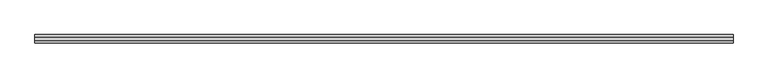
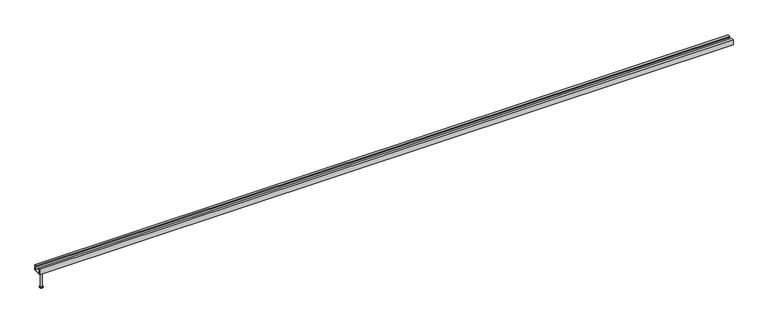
"""IFC4 building model written with IfcOpenShell, lengths in millimetres: fastener geometry, JTA-W JORDAHL® AnchorChannels : JTA-W L=6000 mm."""

from ifc_helpers import new_model, si_unit, frame, origin, place, context, project, spatial, polyline, circle_curve, outline, extrude, source, transform, mapped, element, save
from ifc_brep_helpers import plane_surface, cylinder_surface, revolved_surface, advanced_brep


def fastener_4d909be3(model_context):
    return source(origin(), model_context, "Body", "SolidModel", [
        advanced_brep(
        [(35.0, 0.0, -48.0), (58.0, 0.0, -48.0), (12.0, 0.0, -48.0), (19.5, 0.0, -195.0), (50.5, 0.0, -195.0), (35.0, 0.0, -195.0), (19.5, 0.0, -193.0), (50.5, 0.0, -193.0), (27.2, 0.0, -188.5544029), (42.8, 0.0, -188.5544029), (27.2, 0.0, -52.0), (42.8, 0.0, -52.0)],
        [
            (0, 1),
            (1, 2, circle_curve(frame((35.0, 0.0, -48.0), z_axis=(0.0, 0.0, 1.0), x_axis=(1.0, 0.0, 0.0)), 23.0)),
            (2, 0),
            (2, 1, circle_curve(frame((35.0, 0.0, -48.0), z_axis=(0.0, 0.0, 1.0), x_axis=(1.0, 0.0, 0.0)), 23.0)),
            (3, 4, circle_curve(frame((35.0, 0.0, -195.0), z_axis=(0.0, 0.0, -1.0), x_axis=(1.0, 0.0, 0.0)), 15.5)),
            (4, 5),
            (5, 3),
            (4, 3, circle_curve(frame((35.0, 0.0, -195.0), z_axis=(0.0, 0.0, -1.0), x_axis=(1.0, 0.0, 0.0)), 15.5)),
            (6, 7, circle_curve(frame((35.0, 0.0, -193.0), z_axis=(0.0, 0.0, -1.0), x_axis=(1.0, 0.0, 0.0)), 15.5)),
            (7, 4),
            (3, 6),
            (7, 6, circle_curve(frame((35.0, 0.0, -193.0), z_axis=(0.0, 0.0, -1.0), x_axis=(1.0, 0.0, 0.0)), 15.5)),
            (8, 9, circle_curve(frame((35.0, 0.0, -188.5544029), z_axis=(0.0, 0.0, -1.0), x_axis=(1.0, 0.0, 0.0)), 7.8)),
            (9, 7),
            (6, 8),
            (9, 8, circle_curve(frame((35.0, 0.0, -188.5544029), z_axis=(0.0, 0.0, -1.0), x_axis=(1.0, 0.0, 0.0)), 7.8)),
            (10, 11, circle_curve(frame((35.0, 0.0, -52.0), z_axis=(0.0, 0.0, -1.0), x_axis=(1.0, 0.0, 0.0)), 7.8)),
            (11, 9),
            (8, 10),
            (11, 10, circle_curve(frame((35.0, 0.0, -52.0), z_axis=(0.0, 0.0, -1.0), x_axis=(1.0, 0.0, 0.0)), 7.8)),
            (1, 11),
            (10, 2),
        ],
        [
            plane_surface(frame((35.0, 0.0, -48.0), z_axis=(0.0, 0.0, 1.0), x_axis=(1.0, 0.0, 0.0))),
            plane_surface(frame((35.0, 0.0, -195.0), z_axis=(0.0, 0.0, -1.0), x_axis=(1.0, 0.0, 0.0))),
            cylinder_surface(frame((35.0, 0.0, 2361.3150031), z_axis=(0.0, 0.0, 1.0), x_axis=(1.0, 0.0, 0.0)), 15.5),
            revolved_surface(polyline([(50.5, 0.0, -193.0), (42.8, 0.0, -188.5544029)]), (35.0, 0.0, 2361.3150031), (0.0, 0.0, 1.0)),
            cylinder_surface(frame((35.0, 0.0, 2361.3150031), z_axis=(0.0, 0.0, 1.0), x_axis=(1.0, 0.0, 0.0)), 7.8),
            revolved_surface(polyline([(42.8, 0.0, -52.0), (58.0, 0.0, -48.0)]), (35.0, 0.0, 2361.3150031), (0.0, 0.0, 1.0)),
        ],
        [
            (0, [[1, 2, 3]]),
            (0, [[-3, 4, -1]]),
            (1, [[5, 6, 7]]),
            (1, [[8, -7, -6]]),
            (2, [[9, 10, -5, 11]]),
            (2, [[12, -11, -8, -10]]),
            (3, [[13, 14, -9, 15]]),
            (3, [[16, -15, -12, -14]]),
            (4, [[17, 18, -13, 19]]),
            (4, [[20, -19, -16, -18]]),
            (5, [[-2, 21, -17, 22]]),
            (5, [[-4, -22, -20, -21]]),
        ],
    ),
        extrude(outline(polyline([(36.0, 0.0), (36.0, -48.0), (-36.0, -48.0), (-36.0, 0.0), (-16.5, 0.0), (-16.5, -10.0), (-31.0, -10.0), (-31.0, -43.0), (31.0, -43.0), (31.0, -10.0), (16.5, -10.0), (16.5, 0.0), (36.0, 0.0)])), frame((0.0, 0.0, 0.0), z_axis=(1.0, 0.0, 0.0), x_axis=(0.0, 1.0, 0.0)), (0.0, 0.0, 1.0), 6000.0),
    ])


if __name__ == "__main__":
    model = new_model("IFC4")
    model_context = context("Model", 3, world=origin())
    ifc_project = project(units=[si_unit("LENGTHUNIT", "METRE", prefix="MILLI")], contexts=[model_context])
    site = spatial("IfcSite", under=ifc_project)
    building = spatial("IfcBuilding", under=site)
    placement = place(None, origin())
    fastener_shape = fastener_4d909be3(model_context)
    element("IfcFastener", 1, ObjectType="JTA-W JORDAHL® AnchorChannels : JTA-W L=6000 mm", at=placement, inside=building, context=model_context, shape_type="MappedRepresentation", body=[
        mapped(fastener_shape, transform((0.0, 0.0, 0.0), x_axis=(1.0, 0.0, 0.0), y_axis=(0.0, 1.0, 0.0), z_axis=(0.0, 0.0, 1.0))),
    ])
    save(model, "model.ifc")
